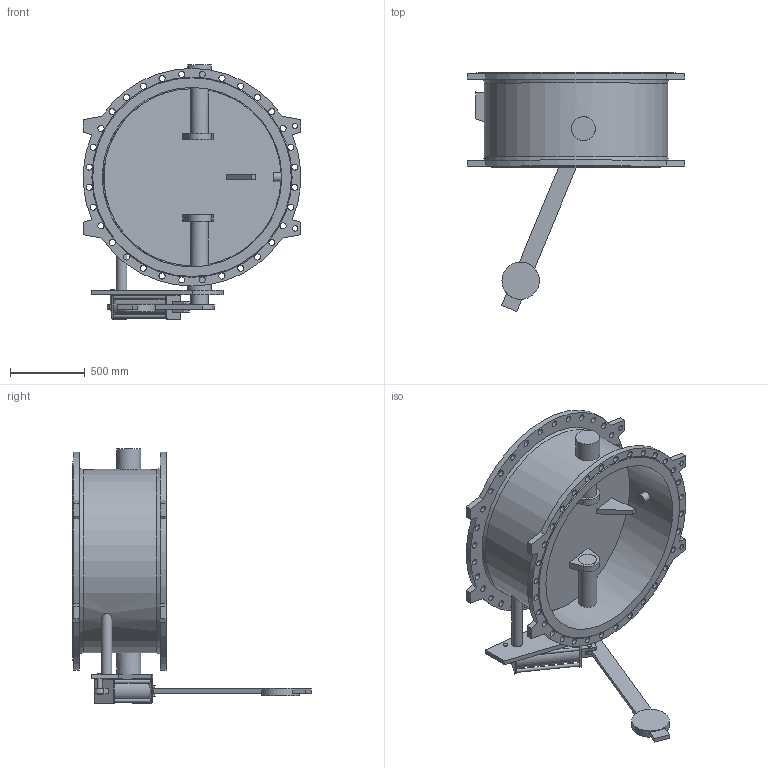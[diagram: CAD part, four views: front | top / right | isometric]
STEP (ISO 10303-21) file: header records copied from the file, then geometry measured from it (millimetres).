
FILE_DESCRIPTION(('STEP AP203'), '1');
FILE_NAME('Êëàïàí 015F.PV DN1200 PN10 ñ ïðîòèâîâåñîì ñ äåìïôåðîì', '', ('UNSPECIFIED'), ('UNSPECIFIED'), 'ASCON STEP Converter 1.6', 'ASCON Math Kernel', '');
FILE_SCHEMA(('CONFIG_CONTROL_DESIGN'));
Length unit declared in the file: millimetre
Bounding box: 1455 x 1595 x 1698 mm (x, y, z)
Volume: 122726641.1 mm3; surface area: 11605388.1 mm2
Topology: 1 solids, 1 shells, 231 faces, 601 edges, 399 vertices
Faces by surface type: cylinder 122, plane 100, cone 4, extrusion 2, torus 2, bspline 1
Full cylindrical faces by diameter (mm): 18 x1, 22 x4, 30 x2, 32 x7, 35 x4, 41 x64, 50 x1, 60 x1, 70 x1, 120 x3, 122 x2, 140 x1, 160 x2, 250 x1, 1200 x1, 1226 x1
Entity records: 10599 total; most frequent: CARTESIAN_POINT 2970, DIRECTION 1170, ORIENTED_EDGE 980, EDGE_LOOP 526, EDGE_CURVE 490, AXIS2_PLACEMENT_3D 477, VERTEX_POINT 398, FACE_BOUND 322
